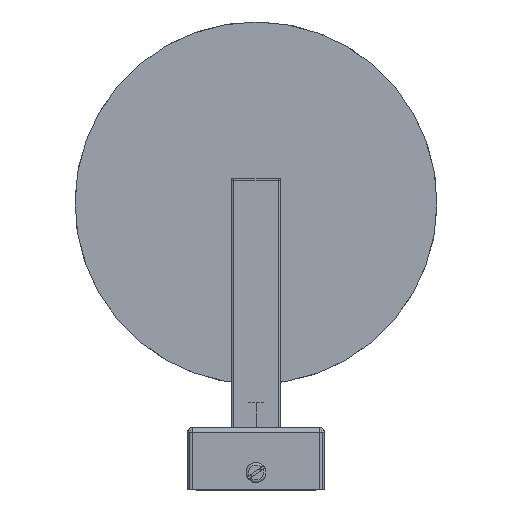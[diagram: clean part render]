
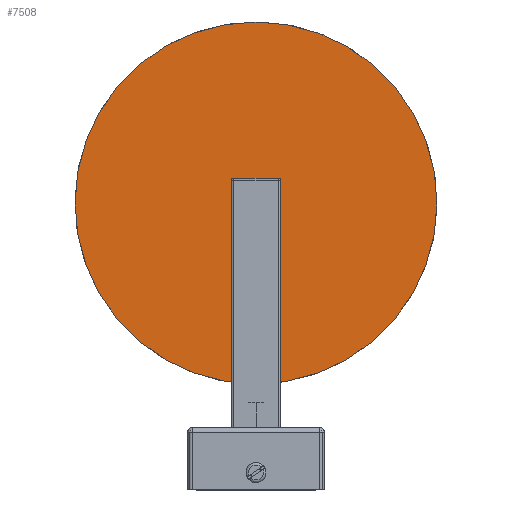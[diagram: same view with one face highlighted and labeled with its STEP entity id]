
A CAD part, front view. The second image highlights one B-rep face of the part: STEP entity #7508.
In plain terms, the highlighted planar face has unit normal (0, -1, 0).
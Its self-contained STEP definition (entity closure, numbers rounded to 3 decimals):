
#122 = EDGE_LOOP ( 'NONE', ( #11180, #1696 ) ) ;
#277 = CARTESIAN_POINT ( 'NONE',  ( 0., -2., 0. ) ) ;
#285 = AXIS2_PLACEMENT_3D ( 'NONE', #3965, #9981, #6914 ) ;
#698 = DIRECTION ( 'NONE',  ( 0., 1., 0. ) ) ;
#1696 = ORIENTED_EDGE ( 'NONE', *, *, #7231, .F. ) ;
#1955 = DIRECTION ( 'NONE',  ( 0., 1., 0. ) ) ;
#2320 = DIRECTION ( 'NONE',  ( 0., 0., 1. ) ) ;
#2546 = DIRECTION ( 'NONE',  ( 0., 0., 1. ) ) ;
#2588 = CARTESIAN_POINT ( 'NONE',  ( 0., -2., 0. ) ) ;
#3054 = VERTEX_POINT ( 'NONE', #5685 ) ;
#3244 = DIRECTION ( 'NONE',  ( 0., 0., 1. ) ) ;
#3550 = VERTEX_POINT ( 'NONE', #8984 ) ;
#3965 = CARTESIAN_POINT ( 'NONE',  ( 0., -2., 0. ) ) ;
#4024 = DIRECTION ( 'NONE',  ( 0., 0., 1. ) ) ;
#4817 = CIRCLE ( 'NONE', #12807, 5.25 ) ;
#4829 = EDGE_LOOP ( 'NONE', ( #10963, #6263 ) ) ;
#4838 = CARTESIAN_POINT ( 'NONE',  ( 0., -2., -5.25 ) ) ;
#5365 = CIRCLE ( 'NONE', #8744, 72.5 ) ;
#5371 = EDGE_CURVE ( 'NONE', #12820, #3054, #4817, .T. ) ;
#5648 = PLANE ( 'NONE',  #11207 ) ;
#5685 = CARTESIAN_POINT ( 'NONE',  ( 0., -2., 5.25 ) ) ;
#6058 = AXIS2_PLACEMENT_3D ( 'NONE', #277, #7408, #2320 ) ;
#6132 = EDGE_CURVE ( 'NONE', #3054, #12820, #11162, .T. ) ;
#6263 = ORIENTED_EDGE ( 'NONE', *, *, #5371, .T. ) ;
#6631 = CIRCLE ( 'NONE', #285, 72.5 ) ;
#6914 = DIRECTION ( 'NONE',  ( 0., 0., 1. ) ) ;
#6945 = VERTEX_POINT ( 'NONE', #12852 ) ;
#7231 = EDGE_CURVE ( 'NONE', #6945, #3550, #5365, .T. ) ;
#7408 = DIRECTION ( 'NONE',  ( 0., 1., 0. ) ) ;
#7508 = ADVANCED_FACE ( 'NONE', ( #10800, #8734 ), #5648, .F. ) ;
#7602 = EDGE_CURVE ( 'NONE', #3550, #6945, #6631, .T. ) ;
#8734 = FACE_OUTER_BOUND ( 'NONE', #122, .T. ) ;
#8744 = AXIS2_PLACEMENT_3D ( 'NONE', #11241, #1955, #4024 ) ;
#8984 = CARTESIAN_POINT ( 'NONE',  ( 0., -2., 72.5 ) ) ;
#9362 = CARTESIAN_POINT ( 'NONE',  ( 0., -2., 0. ) ) ;
#9981 = DIRECTION ( 'NONE',  ( 0., 1., 0. ) ) ;
#10800 = FACE_BOUND ( 'NONE', #4829, .T. ) ;
#10963 = ORIENTED_EDGE ( 'NONE', *, *, #6132, .T. ) ;
#11162 = CIRCLE ( 'NONE', #6058, 5.25 ) ;
#11180 = ORIENTED_EDGE ( 'NONE', *, *, #7602, .F. ) ;
#11207 = AXIS2_PLACEMENT_3D ( 'NONE', #2588, #698, #2546 ) ;
#11241 = CARTESIAN_POINT ( 'NONE',  ( 0., -2., 0. ) ) ;
#11423 = DIRECTION ( 'NONE',  ( 0., 1., 0. ) ) ;
#12807 = AXIS2_PLACEMENT_3D ( 'NONE', #9362, #11423, #3244 ) ;
#12820 = VERTEX_POINT ( 'NONE', #4838 ) ;
#12852 = CARTESIAN_POINT ( 'NONE',  ( 0., -2., -72.5 ) ) ;
